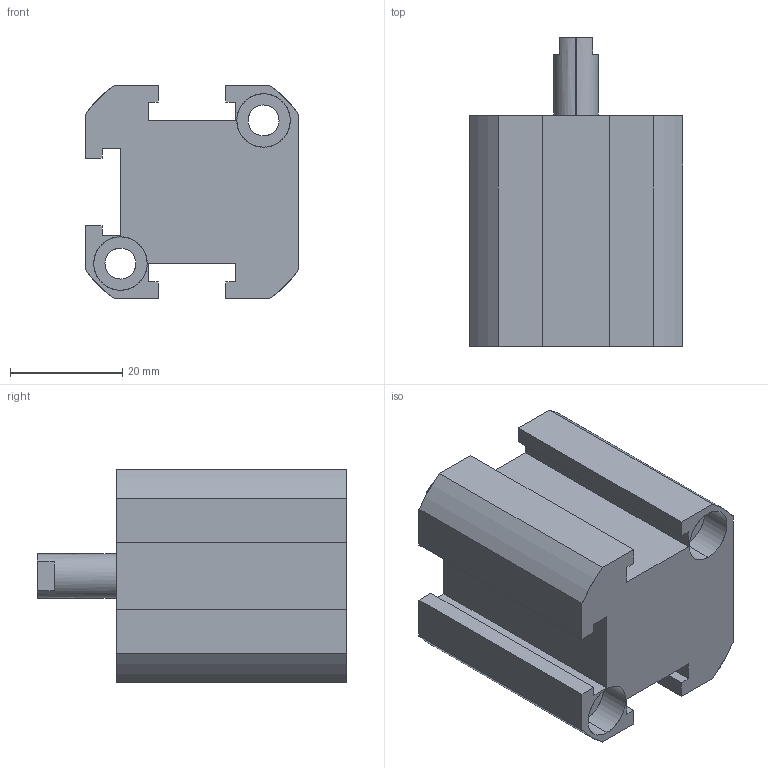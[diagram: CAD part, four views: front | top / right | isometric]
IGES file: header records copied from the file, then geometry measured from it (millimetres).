
Start section: SolidWorks IGES file using analytic representation for surfaces
Global section: file name: C:\Users\Toshiba\Desktop\XG#0-20D-10.IGS; native system: SolidWorks 2014; preprocessor: SolidWorks 2014; author: Toshiba; date: 160524.093101; units: millimetre
Bounding box: 38 x 55 x 38 mm (x, y, z)
Surface area: 12850.8 mm2 (no closed solid volume)
Topology: 0 solids, 0 shells, 85 faces, 1211 edges, 1207 vertices
Faces by surface type: bspline 44, revolution 41
